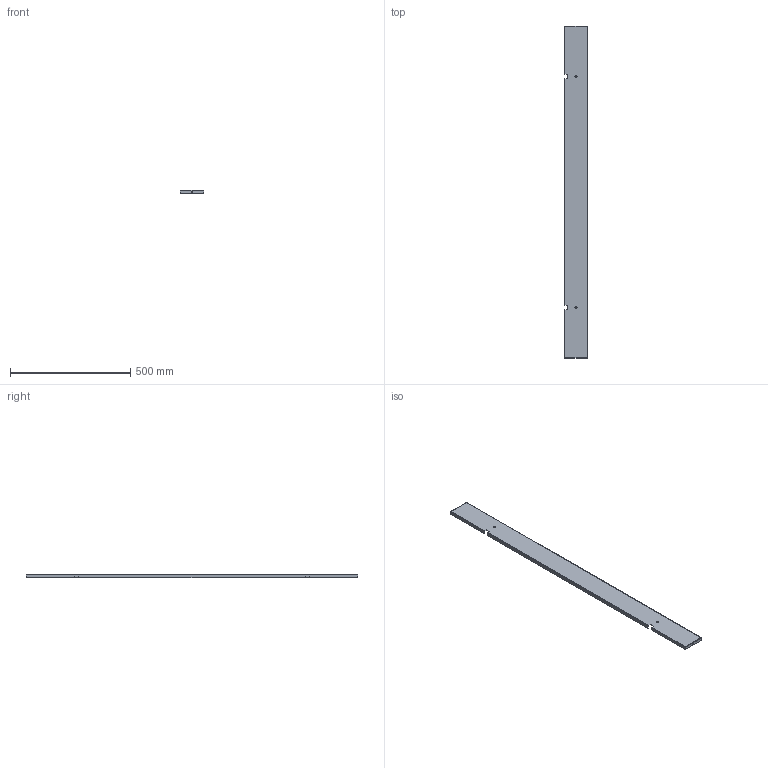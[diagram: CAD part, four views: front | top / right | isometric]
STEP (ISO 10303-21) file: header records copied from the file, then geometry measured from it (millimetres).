
FILE_DESCRIPTION (( 'STEP AP203' ), '1' );
FILE_NAME ('EUP0132.STEP', '2018-07-03T12:36:12', ( '' ), ( '' ), 'SwSTEP 2.0', 'SolidWorks 2017', '' );
FILE_SCHEMA (( 'CONFIG_CONTROL_DESIGN' ));
Length unit declared in the file: millimetre
Products named in the file (1): EUP0132
Bounding box: 96 x 1382 x 13.5 mm (x, y, z)
Volume: 166025.8 mm3; surface area: 335320.4 mm2
Topology: 1 solids, 1 shells, 74 faces, 168 edges, 96 vertices
Faces by surface type: plane 46, cylinder 20, bspline 8
Entity records: 2419 total; most frequent: CARTESIAN_POINT 753, ORIENTED_EDGE 336, DIRECTION 298, EDGE_CURVE 168, LINE 116, VECTOR 116, VERTEX_POINT 96, AXIS2_PLACEMENT_3D 91
